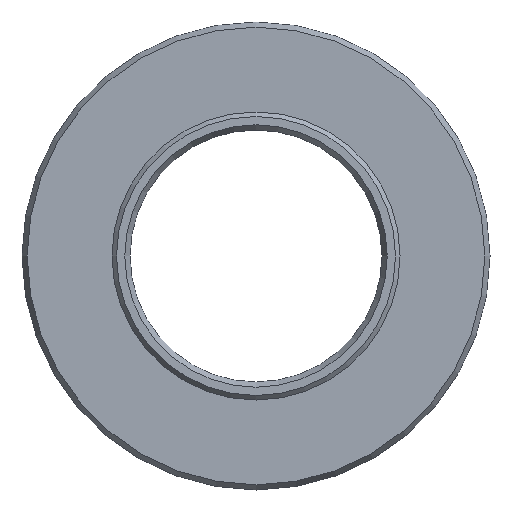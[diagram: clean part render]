
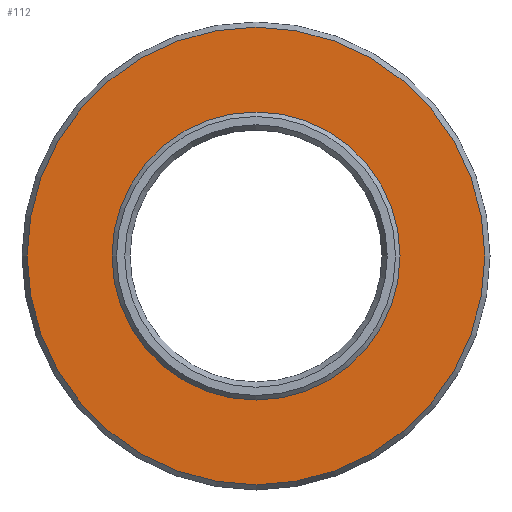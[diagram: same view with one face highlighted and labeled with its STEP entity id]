
A CAD part, left-side view. The second image highlights one B-rep face of the part: STEP entity #112.
In plain terms, the highlighted planar face has unit normal (-1, 0, 0).
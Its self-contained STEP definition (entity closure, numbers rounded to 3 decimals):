
#107=PLANE('',#279);
#112=ADVANCED_FACE('',(#131,#132),#107,.T.);
#131=FACE_BOUND('',#163,.T.);
#132=FACE_BOUND('',#164,.T.);
#163=EDGE_LOOP('',(#195));
#164=EDGE_LOOP('',(#196));
#195=ORIENTED_EDGE('',*,*,#243,.T.);
#196=ORIENTED_EDGE('',*,*,#244,.T.);
#227=VERTEX_POINT('',#379);
#228=VERTEX_POINT('',#381);
#243=EDGE_CURVE('',#227,#227,#259,.T.);
#244=EDGE_CURVE('',#228,#228,#260,.T.);
#259=CIRCLE('',#277,25.423);
#260=CIRCLE('',#278,16.);
#277=AXIS2_PLACEMENT_3D('',#378,#314,#315);
#278=AXIS2_PLACEMENT_3D('',#380,#316,#317);
#279=AXIS2_PLACEMENT_3D('',#382,#318,#319);
#314=DIRECTION('',(-1.,0.,0.));
#315=DIRECTION('',(0.,0.,1.));
#316=DIRECTION('',(1.,0.,0.));
#317=DIRECTION('',(0.,0.,-1.));
#318=DIRECTION('',(-1.,0.,0.));
#319=DIRECTION('',(0.,0.,1.));
#378=CARTESIAN_POINT('',(0.,0.,0.));
#379=CARTESIAN_POINT('',(0.,0.,25.423));
#380=CARTESIAN_POINT('',(0.,0.,0.));
#381=CARTESIAN_POINT('',(0.,0.,-16.));
#382=CARTESIAN_POINT('',(0.,26.,0.));
